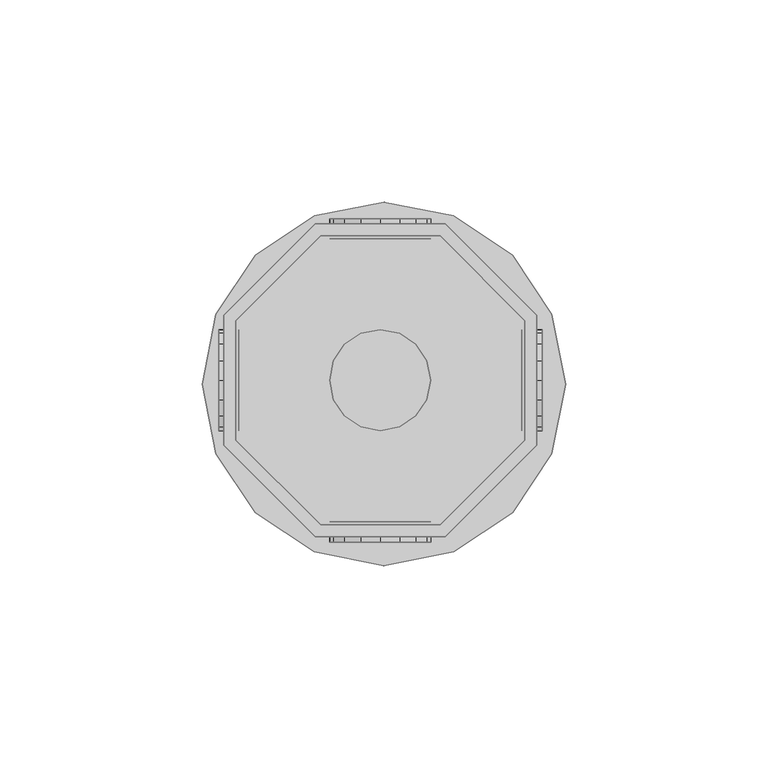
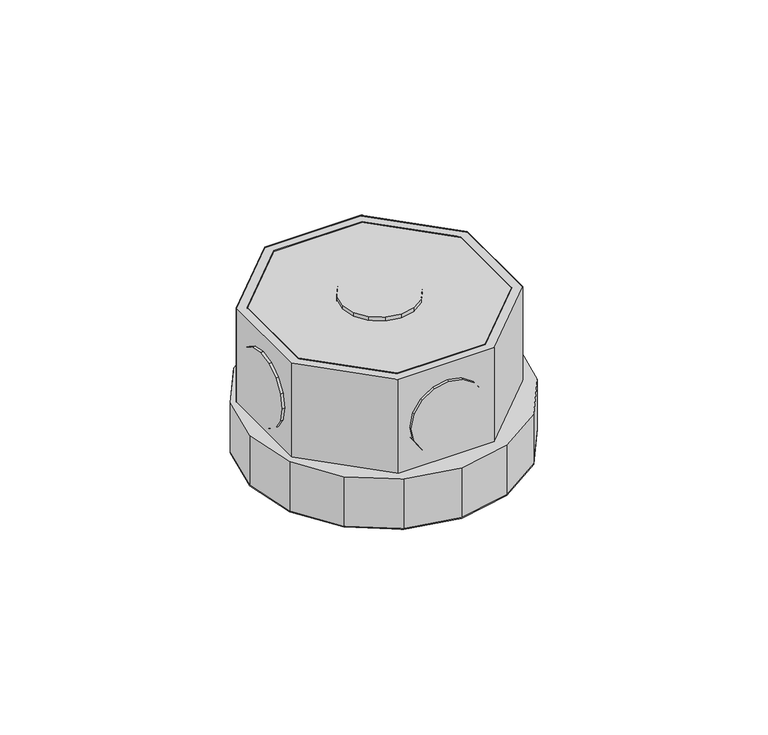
"""IFC4 building model written with IfcOpenShell, lengths in millimetres: light fixture geometry,  212914 :  212914."""

from ifc_helpers import new_model, si_unit, origin, place, context, project, spatial, triangles, source, transform, mapped, element, save


def light_fixture_003b04c1(model_context):
    return source(origin(), model_context, "Body", "Tessellation", [
        triangles([(24994.9999146, 12424.6997498, 2924.5999741), (24965.3993958, 12424.6997498, 2975.400071), (24965.3993958, 12424.6997498, 2924.5999741), (24994.9999146, 12424.6997498, 2975.400071), (24996.1998413, 12350.199646, 2924.5999741), (24964.0994751, 12350.199646, 2975.400071), (24964.0994751, 12350.199646, 2924.5999741), (24996.1998413, 12350.199646, 2975.400071), (24944.4006775, 12403.6998688, 2975.400071), (24944.4006775, 12403.6998688, 2924.5999741), (25018.9007813, 12372.8994232, 2924.5999741), (25018.9007813, 12372.8994232, 2975.400071), (24944.4006775, 12374.1005127, 2975.400071), (24944.4006775, 12374.1005127, 2924.5999741), (25018.9007813, 12404.9997894, 2924.5999741), (25018.9007813, 12404.9997894, 2975.400071), (24965.3993958, 12353.1994629, 2975.400071), (24965.3993958, 12353.1994629, 2924.5999741), (24996.1998413, 12427.6995667, 2924.5999741), (24996.1998413, 12427.6995667, 2975.400071), (24994.9999146, 12353.1994629, 2924.5999741), (24994.9999146, 12353.1994629, 2975.400071), (24964.0994751, 12427.6995667, 2975.400071), (24964.0994751, 12427.6995667, 2924.5999741), (25015.9009644, 12374.1005127, 2924.5999741), (25015.9009644, 12374.1005127, 2975.400071), (24941.4008606, 12404.9997894, 2975.400071), (24941.4008606, 12404.9997894, 2924.5999741), (24941.4008606, 12372.8994232, 2975.400071), (25015.9009644, 12403.6998688, 2975.400071), (25015.9009644, 12403.6998688, 2924.5999741), (24941.4008606, 12372.8994232, 2924.5999741), (24944.4006775, 12374.1005127, 2972.3999634), (24965.3993958, 12353.1994629, 2972.3999634), (24994.9999146, 12353.1994629, 2972.3999634), (25015.9009644, 12374.1005127, 2972.3999634), (25015.9009644, 12403.6998688, 2972.3999634), (24994.9999146, 12424.6997498, 2972.3999634), (24965.3993958, 12424.6997498, 2972.3999634), (24944.4006775, 12403.6998688, 2972.3999634), (24941.4008606, 12404.9997894, 2942.4000504), (24964.0994751, 12427.6995667, 2942.4000504), (24996.1998413, 12427.6995667, 2942.4000504), (25018.9007813, 12404.9997894, 2942.4000504), (25018.9007813, 12372.8994232, 2942.4000504), (24996.1998413, 12350.199646, 2942.4000504), (24964.0994751, 12350.199646, 2942.4000504), (24941.4008606, 12372.8994232, 2942.4000504), (24963.7994934, 12346.4998718, 2942.4000504), (24939.5009766, 12370.7995514, 2942.4000504), (24949.2003845, 12356.2004425, 2942.4000504), (24936.0988586, 12387.9996643, 2942.4000504), (24939.5009766, 12405.2997711, 2942.4000504), (24949.2003845, 12419.9000427, 2942.4000504), (24963.7994934, 12429.5994507, 2942.4000504), (24981.1007629, 12433.0004059, 2942.4000504), (24998.2997131, 12429.5994507, 2942.4000504), (25022.6005554, 12405.2997711, 2942.4000504), (25012.9011475, 12419.9000427, 2942.4000504), (24981.1007629, 12343.0000854, 2942.4000504), (24998.2997131, 12346.4998718, 2942.4000504), (25012.9011475, 12356.2004425, 2942.4000504), (25022.6005554, 12370.7995514, 2942.4000504), (25026.1003418, 12387.9996643, 2942.4000504), (24939.5009766, 12370.7995514, 2924.5999741), (24963.7994934, 12346.4998718, 2924.5999741), (24949.2003845, 12356.2004425, 2924.5999741), (24936.0988586, 12387.9996643, 2924.5999741), (24939.5009766, 12405.2997711, 2924.5999741), (24949.2003845, 12419.9000427, 2924.5999741), (24963.7994934, 12429.5994507, 2924.5999741), (24981.1007629, 12433.0004059, 2924.5999741), (24998.2997131, 12429.5994507, 2924.5999741), (25022.6005554, 12405.2997711, 2924.5999741), (25012.9011475, 12419.9000427, 2924.5999741), (24981.1007629, 12343.0000854, 2924.5999741), (24998.2997131, 12346.4998718, 2924.5999741), (25012.9011475, 12356.2004425, 2924.5999741), (25022.6005554, 12370.7995514, 2924.5999741), (25026.1003418, 12387.9996643, 2924.5999741), (24968.5992004, 12428.8994934, 2952.6000092), (24975.4011108, 12428.8994934, 2945.9001274), (24971.2990356, 12428.8994934, 2948.5999626), (24967.6992554, 12428.8994934, 2957.4000069), (24980.2008179, 12428.8994934, 2944.8998978), (24968.5992004, 12428.8994934, 2962.2000046), (24985.0005249, 12428.8994934, 2945.9001274), (24971.2990356, 12428.8994934, 2966.2000511), (24989.0002808, 12428.8994934, 2948.5999626), (24975.4011108, 12428.8994934, 2968.8998863), (24991.700116, 12428.8994934, 2952.6000092), (24980.2008179, 12428.8994934, 2969.900116), (24992.7000549, 12428.8994934, 2957.4000069), (24985.0005249, 12428.8994934, 2968.8998863), (24991.700116, 12428.8994934, 2962.2000046), (24989.0002808, 12428.8994934, 2966.2000511), (24975.4011108, 12423.8997986, 2945.9001274), (24968.5992004, 12423.8997986, 2952.6000092), (24971.2990356, 12423.8997986, 2948.5999626), (24980.2008179, 12423.8997986, 2944.8998978), (24967.6992554, 12423.8997986, 2957.4000069), (24985.0005249, 12423.8997986, 2945.9001274), (24968.5992004, 12423.8997986, 2962.2000046), (24989.0002808, 12423.8997986, 2948.5999626), (24971.2990356, 12423.8997986, 2966.2000511), (24975.4011108, 12423.8997986, 2968.8998863), (24991.700116, 12423.8997986, 2952.6000092), (24980.2008179, 12423.8997986, 2969.900116), (24992.7000549, 12423.8997986, 2957.4000069), (24985.0005249, 12423.8997986, 2968.8998863), (24991.700116, 12423.8997986, 2962.2000046), (24989.0002808, 12423.8997986, 2966.2000511), (24968.5992004, 12353.8994202, 2952.6000092), (24975.4011108, 12353.8994202, 2945.9001274), (24971.2990356, 12353.8994202, 2948.5999626), (24967.6992554, 12353.8994202, 2957.4000069), (24980.2008179, 12353.8994202, 2944.8998978), (24968.5992004, 12353.8994202, 2962.2000046), (24985.0005249, 12353.8994202, 2945.9001274), (24971.2990356, 12353.8994202, 2966.2000511), (24989.0002808, 12353.8994202, 2948.5999626), (24975.4011108, 12353.8994202, 2968.8998863), (24991.700116, 12353.8994202, 2952.6000092), (24980.2008179, 12353.8994202, 2969.900116), (24992.7000549, 12353.8994202, 2957.4000069), (24985.0005249, 12353.8994202, 2968.8998863), (24991.700116, 12353.8994202, 2962.2000046), (24989.0002808, 12353.8994202, 2966.2000511), (24975.4011108, 12348.8997253, 2945.9001274), (24968.5992004, 12348.8997253, 2952.6000092), (24971.2990356, 12348.8997253, 2948.5999626), (24980.2008179, 12348.8997253, 2944.8998978), (24967.6992554, 12348.8997253, 2957.4000069), (24985.0005249, 12348.8997253, 2945.9001274), (24968.5992004, 12348.8997253, 2962.2000046), (24989.0002808, 12348.8997253, 2948.5999626), (24971.2990356, 12348.8997253, 2966.2000511), (24975.4011108, 12348.8997253, 2968.8998863), (24991.700116, 12348.8997253, 2952.6000092), (24980.2008179, 12348.8997253, 2969.900116), (24992.7000549, 12348.8997253, 2957.4000069), (24985.0005249, 12348.8997253, 2968.8998863), (24991.700116, 12348.8997253, 2962.2000046), (24989.0002808, 12348.8997253, 2966.2000511), (24945.2006287, 12384.0999023, 2945.9001274), (24945.2006287, 12377.4003113, 2952.6000092), (24945.2006287, 12380.1001465, 2948.5999626), (24945.2006287, 12388.8996094, 2944.8998978), (24945.2006287, 12376.4003723, 2957.4000069), (24945.2006287, 12393.7004791, 2945.9001274), (24945.2006287, 12377.4003113, 2962.2000046), (24945.2006287, 12397.8002289, 2948.5999626), (24945.2006287, 12380.1001465, 2966.2000511), (24945.2006287, 12384.0999023, 2968.8998863), (24945.2006287, 12400.5000641, 2952.6000092), (24945.2006287, 12388.8996094, 2969.900116), (24945.2006287, 12401.4000092, 2957.4000069), (24945.2006287, 12393.7004791, 2968.8998863), (24945.2006287, 12400.5000641, 2962.2000046), (24945.2006287, 12397.8002289, 2966.2000511), (24940.2009338, 12377.4003113, 2952.6000092), (24940.2009338, 12384.0999023, 2945.9001274), (24940.2009338, 12380.1001465, 2948.5999626), (24940.2009338, 12376.4003723, 2957.4000069), (24940.2009338, 12388.8996094, 2944.8998978), (24940.2009338, 12377.4003113, 2962.2000046), (24940.2009338, 12393.7004791, 2945.9001274), (24940.2009338, 12380.1001465, 2966.2000511), (24940.2009338, 12397.8002289, 2948.5999626), (24940.2009338, 12384.0999023, 2968.8998863), (24940.2009338, 12400.5000641, 2952.6000092), (24940.2009338, 12388.8996094, 2969.900116), (24940.2009338, 12401.4000092, 2957.4000069), (24940.2009338, 12393.7004791, 2968.8998863), (24940.2009338, 12400.5000641, 2962.2000046), (24940.2009338, 12397.8002289, 2966.2000511), (25020.2007019, 12384.0999023, 2945.9001274), (25020.2007019, 12377.4003113, 2952.6000092), (25020.2007019, 12380.1001465, 2948.5999626), (25020.2007019, 12388.8996094, 2944.8998978), (25020.2007019, 12376.4003723, 2957.4000069), (25020.2007019, 12393.7004791, 2945.9001274), (25020.2007019, 12377.4003113, 2962.2000046), (25020.2007019, 12397.8002289, 2948.5999626), (25020.2007019, 12380.1001465, 2966.2000511), (25020.2007019, 12384.0999023, 2968.8998863), (25020.2007019, 12400.5000641, 2952.6000092), (25020.2007019, 12388.8996094, 2969.900116), (25020.2007019, 12401.4000092, 2957.4000069), (25020.2007019, 12393.7004791, 2968.8998863), (25020.2007019, 12400.5000641, 2962.2000046), (25020.2007019, 12397.8002289, 2966.2000511), (25015.2010071, 12377.4003113, 2952.6000092), (25015.2010071, 12384.0999023, 2945.9001274), (25015.2010071, 12380.1001465, 2948.5999626), (25015.2010071, 12376.4003723, 2957.4000069), (25015.2010071, 12388.8996094, 2944.8998978), (25015.2010071, 12377.4003113, 2962.2000046), (25015.2010071, 12393.7004791, 2945.9001274), (25015.2010071, 12380.1001465, 2966.2000511), (25015.2010071, 12397.8002289, 2948.5999626), (25015.2010071, 12384.0999023, 2968.8998863), (25015.2010071, 12400.5000641, 2952.6000092), (25015.2010071, 12388.8996094, 2969.900116), (25015.2010071, 12401.4000092, 2957.4000069), (25015.2010071, 12393.7004791, 2968.8998863), (25015.2010071, 12400.5000641, 2962.2000046), (25015.2010071, 12397.8002289, 2966.2000511), (24975.4011108, 12377.4003113, 2976.9999733), (24968.5992004, 12384.0999023, 2976.9999733), (24971.2990356, 12380.1001465, 2976.9999733), (24967.6992554, 12388.8996094, 2976.9999733), (24980.2008179, 12376.4003723, 2976.9999733), (24968.5992004, 12393.7004791, 2976.9999733), (24985.0005249, 12377.4003113, 2976.9999733), (24971.2990356, 12397.8002289, 2976.9999733), (24989.0002808, 12380.1001465, 2976.9999733), (24975.4011108, 12400.5000641, 2976.9999733), (24991.700116, 12384.0999023, 2976.9999733), (24980.2008179, 12401.4000092, 2976.9999733), (24992.7000549, 12388.8996094, 2976.9999733), (24985.0005249, 12400.5000641, 2976.9999733), (24991.700116, 12393.7004791, 2976.9999733), (24989.0002808, 12397.8002289, 2976.9999733), (24968.5992004, 12384.0999023, 2971.9999878), (24975.4011108, 12377.4003113, 2971.9999878), (24971.2990356, 12380.1001465, 2971.9999878), (24967.6992554, 12388.8996094, 2971.9999878), (24980.2008179, 12376.4003723, 2971.9999878), (24968.5992004, 12393.7004791, 2971.9999878), (24985.0005249, 12377.4003113, 2971.9999878), (24971.2990356, 12397.8002289, 2971.9999878), (24989.0002808, 12380.1001465, 2971.9999878), (24975.4011108, 12400.5000641, 2971.9999878), (24991.700116, 12384.0999023, 2971.9999878), (24980.2008179, 12401.4000092, 2971.9999878), (24992.7000549, 12388.8996094, 2971.9999878), (24985.0005249, 12400.5000641, 2971.9999878), (24991.700116, 12393.7004791, 2971.9999878), (24989.0002808, 12397.8002289, 2971.9999878)], [[1, 2, 3], [2, 1, 4], [5, 6, 7], [6, 5, 8], [3, 9, 10], [9, 3, 2], [11, 8, 5], [8, 11, 12], [10, 13, 14], [13, 10, 9], [15, 12, 11], [12, 15, 16], [14, 17, 18], [17, 14, 13], [19, 16, 15], [16, 19, 20], [17, 21, 18], [21, 17, 22], [23, 19, 24], [19, 23, 20], [22, 25, 21], [25, 22, 26], [27, 24, 28], [24, 27, 23], [6, 13, 29], [29, 13, 27], [27, 13, 9], [27, 9, 23], [23, 9, 2], [23, 2, 4], [23, 4, 20], [20, 4, 30], [8, 17, 6], [6, 17, 13], [17, 8, 22], [12, 22, 8], [22, 12, 26], [30, 26, 12], [16, 30, 12], [20, 30, 16], [30, 1, 31], [1, 30, 4], [6, 32, 7], [32, 6, 29], [32, 14, 7], [28, 14, 32], [14, 28, 10], [24, 10, 28], [10, 24, 3], [1, 3, 24], [19, 1, 24], [31, 1, 19], [7, 18, 5], [14, 18, 7], [5, 18, 21], [5, 21, 11], [11, 21, 25], [11, 25, 31], [11, 31, 15], [15, 31, 19], [26, 31, 25], [31, 26, 30], [29, 28, 32], [28, 29, 27], [17, 33, 34], [33, 17, 13], [35, 17, 34], [17, 35, 22], [36, 22, 35], [22, 36, 26], [37, 26, 36], [26, 37, 30], [38, 30, 37], [30, 38, 4], [2, 38, 39], [38, 2, 4], [17, 9, 13], [9, 17, 22], [9, 22, 2], [2, 22, 26], [2, 26, 4], [4, 26, 30], [13, 40, 33], [40, 13, 9], [40, 34, 33], [35, 34, 40], [35, 40, 39], [35, 39, 36], [36, 39, 38], [36, 38, 37], [9, 39, 40], [39, 9, 2], [24, 41, 28], [41, 24, 42], [19, 42, 24], [42, 19, 43], [44, 19, 15], [19, 44, 43], [45, 15, 11], [15, 45, 44], [46, 11, 5], [11, 46, 45], [47, 5, 7], [5, 47, 46], [32, 47, 7], [47, 32, 48], [28, 48, 32], [48, 28, 41], [49, 50, 51], [48, 50, 49], [50, 48, 52], [41, 52, 48], [52, 41, 53], [53, 41, 54], [42, 54, 41], [54, 42, 55], [55, 42, 43], [55, 43, 56], [56, 43, 57], [57, 43, 44], [57, 44, 58], [57, 58, 59], [47, 49, 60], [49, 47, 48], [47, 60, 46], [61, 46, 60], [46, 61, 62], [46, 62, 45], [45, 62, 63], [44, 45, 63], [44, 63, 64], [44, 64, 58], [65, 66, 67], [66, 65, 32], [68, 32, 65], [32, 68, 28], [28, 68, 69], [70, 28, 69], [28, 70, 24], [71, 24, 70], [19, 24, 71], [19, 71, 72], [73, 19, 72], [19, 73, 15], [74, 15, 73], [74, 73, 75], [76, 66, 7], [32, 7, 66], [5, 76, 7], [76, 5, 77], [77, 5, 78], [11, 78, 5], [78, 11, 79], [79, 11, 15], [79, 15, 80], [80, 15, 74], [57, 75, 73], [75, 57, 59], [56, 73, 72], [73, 56, 57], [55, 72, 71], [72, 55, 56], [54, 71, 70], [71, 54, 55], [53, 70, 69], [70, 53, 54], [52, 69, 68], [69, 52, 53], [50, 68, 65], [68, 50, 52], [51, 65, 67], [65, 51, 50], [66, 51, 67], [51, 66, 49], [76, 49, 66], [49, 76, 60], [77, 60, 76], [60, 77, 61], [78, 61, 77], [61, 78, 62], [79, 62, 78], [62, 79, 63], [80, 63, 79], [63, 80, 64], [75, 58, 74], [58, 75, 59], [74, 64, 80], [64, 74, 58], [81, 82, 83], [82, 81, 84], [85, 82, 84], [85, 84, 86], [87, 85, 86], [87, 86, 88], [87, 88, 89], [89, 88, 90], [89, 90, 91], [91, 90, 92], [91, 92, 93], [93, 92, 94], [93, 94, 95], [95, 94, 96], [97, 98, 99], [98, 97, 100], [101, 98, 100], [101, 100, 102], [103, 101, 102], [103, 102, 104], [103, 104, 105], [105, 104, 106], [106, 104, 107], [106, 107, 108], [108, 107, 109], [108, 109, 110], [110, 109, 111], [110, 111, 112], [87, 104, 102], [104, 87, 89], [85, 102, 100], [102, 85, 87], [82, 100, 97], [100, 82, 85], [83, 97, 99], [97, 83, 82], [98, 83, 99], [83, 98, 81], [101, 81, 98], [81, 101, 84], [103, 84, 101], [84, 103, 86], [105, 86, 103], [86, 105, 88], [106, 88, 105], [88, 106, 90], [108, 90, 106], [90, 108, 92], [110, 92, 108], [92, 110, 94], [112, 94, 110], [94, 112, 96], [95, 112, 111], [112, 95, 96], [93, 111, 109], [111, 93, 95], [89, 107, 104], [107, 89, 91], [91, 109, 107], [109, 91, 93], [113, 114, 115], [114, 113, 116], [117, 114, 116], [117, 116, 118], [119, 117, 118], [119, 118, 120], [119, 120, 121], [121, 120, 122], [121, 122, 123], [123, 122, 124], [123, 124, 125], [125, 124, 126], [125, 126, 127], [127, 126, 128], [129, 130, 131], [130, 129, 132], [133, 130, 132], [133, 132, 134], [135, 133, 134], [135, 134, 136], [135, 136, 137], [137, 136, 138], [138, 136, 139], [138, 139, 140], [140, 139, 141], [140, 141, 142], [142, 141, 143], [142, 143, 144], [119, 136, 134], [136, 119, 121], [117, 134, 132], [134, 117, 119], [114, 132, 129], [132, 114, 117], [115, 129, 131], [129, 115, 114], [130, 115, 131], [115, 130, 113], [133, 113, 130], [113, 133, 116], [135, 116, 133], [116, 135, 118], [137, 118, 135], [118, 137, 120], [138, 120, 137], [120, 138, 122], [140, 122, 138], [122, 140, 124], [142, 124, 140], [124, 142, 126], [144, 126, 142], [126, 144, 128], [127, 144, 143], [144, 127, 128], [125, 143, 141], [143, 125, 127], [121, 139, 136], [139, 121, 123], [123, 141, 139], [141, 123, 125], [145, 146, 147], [146, 145, 148], [149, 146, 148], [149, 148, 150], [151, 149, 150], [151, 150, 152], [151, 152, 153], [153, 152, 154], [154, 152, 155], [154, 155, 156], [156, 155, 157], [156, 157, 158], [158, 157, 159], [158, 159, 160], [161, 162, 163], [162, 161, 164], [165, 162, 164], [165, 164, 166], [167, 165, 166], [167, 166, 168], [169, 167, 168], [169, 168, 170], [169, 170, 171], [171, 170, 172], [171, 172, 173], [173, 172, 174], [173, 174, 175], [175, 174, 176], [158, 176, 174], [176, 158, 160], [156, 174, 172], [174, 156, 158], [154, 172, 170], [172, 154, 156], [153, 170, 168], [170, 153, 154], [151, 168, 166], [168, 151, 153], [149, 166, 164], [166, 149, 151], [146, 164, 161], [164, 146, 149], [147, 161, 163], [161, 147, 146], [162, 147, 163], [147, 162, 145], [165, 145, 162], [145, 165, 148], [167, 148, 165], [148, 167, 150], [169, 150, 167], [150, 169, 152], [171, 152, 169], [152, 171, 155], [173, 155, 171], [155, 173, 157], [176, 159, 175], [159, 176, 160], [175, 157, 173], [157, 175, 159], [177, 178, 179], [178, 177, 180], [181, 178, 180], [181, 180, 182], [183, 181, 182], [183, 182, 184], [183, 184, 185], [185, 184, 186], [186, 184, 187], [186, 187, 188], [188, 187, 189], [188, 189, 190], [190, 189, 191], [190, 191, 192], [193, 194, 195], [194, 193, 196], [197, 194, 196], [197, 196, 198], [199, 197, 198], [199, 198, 200], [201, 199, 200], [201, 200, 202], [201, 202, 203], [203, 202, 204], [203, 204, 205], [205, 204, 206], [205, 206, 207], [207, 206, 208], [190, 208, 206], [208, 190, 192], [188, 206, 204], [206, 188, 190], [186, 204, 202], [204, 186, 188], [185, 202, 200], [202, 185, 186], [183, 200, 198], [200, 183, 185], [181, 198, 196], [198, 181, 183], [178, 196, 193], [196, 178, 181], [179, 193, 195], [193, 179, 178], [194, 179, 195], [179, 194, 177], [197, 177, 194], [177, 197, 180], [199, 180, 197], [180, 199, 182], [201, 182, 199], [182, 201, 184], [203, 184, 201], [184, 203, 187], [205, 187, 203], [187, 205, 189], [208, 191, 207], [191, 208, 192], [207, 189, 205], [189, 207, 191], [209, 210, 211], [212, 210, 209], [212, 209, 213], [214, 212, 213], [214, 213, 215], [216, 214, 215], [216, 215, 217], [216, 217, 218], [218, 217, 219], [218, 219, 220], [220, 219, 221], [220, 221, 222], [222, 221, 223], [222, 223, 224], [225, 226, 227], [226, 225, 228], [229, 226, 228], [229, 228, 230], [231, 229, 230], [231, 230, 232], [231, 232, 233], [233, 232, 234], [233, 234, 235], [235, 234, 236], [235, 236, 237], [237, 236, 238], [237, 238, 239], [239, 238, 240], [222, 240, 238], [240, 222, 224], [220, 238, 236], [238, 220, 222], [218, 236, 234], [236, 218, 220], [216, 234, 232], [234, 216, 218], [214, 232, 230], [232, 214, 216], [212, 230, 228], [230, 212, 214], [210, 228, 225], [228, 210, 212], [211, 225, 227], [225, 211, 210], [226, 211, 227], [211, 226, 209], [229, 209, 226], [209, 229, 213], [231, 213, 229], [213, 231, 215], [233, 215, 231], [215, 233, 217], [235, 217, 233], [217, 235, 219], [237, 219, 235], [219, 237, 221], [240, 223, 239], [223, 240, 224], [239, 221, 237], [221, 239, 223]], closed=False),
    ])


if __name__ == "__main__":
    model = new_model("IFC4")
    model_context = context("Model", 3, world=origin())
    ifc_project = project(units=[si_unit("LENGTHUNIT", "METRE", prefix="MILLI")], contexts=[model_context])
    site = spatial("IfcSite", under=ifc_project)
    building = spatial("IfcBuilding", under=site)
    placement = place(None, origin())
    light_fixture_shape = light_fixture_003b04c1(model_context)
    element("IfcLightFixture", 1, ObjectType=" 212914 :  212914", at=placement, inside=building, context=model_context, shape_type="MappedRepresentation", body=[
        mapped(light_fixture_shape, transform((0.0, 0.0, 0.0), x_axis=(1.0, 0.0, 0.0), y_axis=(0.0, 1.0, 0.0), z_axis=(0.0, 0.0, 1.0))),
    ])
    save(model, "model.ifc")
